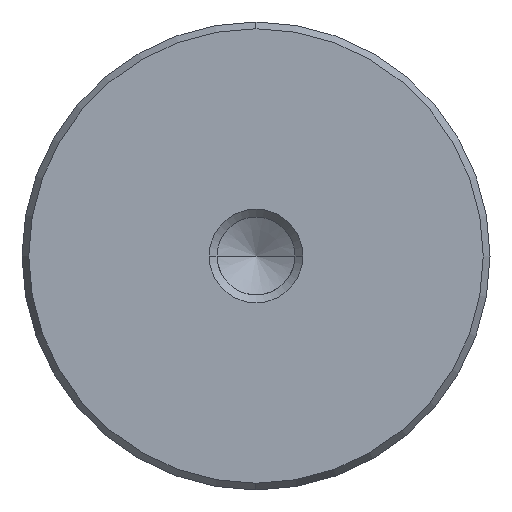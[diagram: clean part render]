
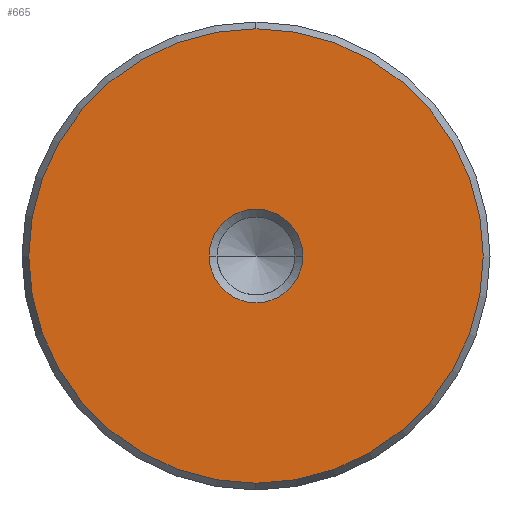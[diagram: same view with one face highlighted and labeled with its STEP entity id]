
A CAD part, left-side view. The second image highlights one B-rep face of the part: STEP entity #665.
In plain terms, the highlighted planar face has unit normal (-1, 0, 0).
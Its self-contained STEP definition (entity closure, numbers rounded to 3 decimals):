
#579=CARTESIAN_POINT('Vertex',(0.,0.,-19.423)) ;
#582=CARTESIAN_POINT('Axis2P3D Location',(0.,0.,0.)) ;
#586=CARTESIAN_POINT('Vertex',(0.,19.423,0.)) ;
#589=CARTESIAN_POINT('Axis2P3D Location',(0.,0.,0.)) ;
#593=CARTESIAN_POINT('Vertex',(0.,0.,19.423)) ;
#615=CARTESIAN_POINT('Axis2P3D Location',(0.,0.,0.)) ;
#619=CARTESIAN_POINT('Vertex',(0.,-19.423,0.)) ;
#622=CARTESIAN_POINT('Axis2P3D Location',(0.,0.,0.)) ;
#636=CARTESIAN_POINT('Axis2P3D Location',(0.,0.,0.)) ;
#647=CARTESIAN_POINT('Axis2P3D Location',(0.,0.,0.)) ;
#651=CARTESIAN_POINT('Vertex',(0.,4.,0.)) ;
#653=CARTESIAN_POINT('Vertex',(0.,-4.,0.)) ;
#656=CARTESIAN_POINT('Axis2P3D Location',(0.,0.,0.)) ;
#583=DIRECTION('Axis2P3D Direction',(1.,0.,-0.)) ;
#590=DIRECTION('Axis2P3D Direction',(1.,0.,-0.)) ;
#616=DIRECTION('Axis2P3D Direction',(1.,0.,-0.)) ;
#623=DIRECTION('Axis2P3D Direction',(1.,0.,-0.)) ;
#637=DIRECTION('Axis2P3D Direction',(1.,0.,-0.)) ;
#638=DIRECTION('Axis2P3D XDirection',(-0.,0.,-1.)) ;
#648=DIRECTION('Axis2P3D Direction',(1.,0.,-0.)) ;
#657=DIRECTION('Axis2P3D Direction',(1.,0.,-0.)) ;
#584=AXIS2_PLACEMENT_3D('Circle Axis2P3D',#582,#583,$) ;
#591=AXIS2_PLACEMENT_3D('Circle Axis2P3D',#589,#590,$) ;
#617=AXIS2_PLACEMENT_3D('Circle Axis2P3D',#615,#616,$) ;
#624=AXIS2_PLACEMENT_3D('Circle Axis2P3D',#622,#623,$) ;
#639=AXIS2_PLACEMENT_3D('Plane Axis2P3D',#636,#637,#638) ;
#649=AXIS2_PLACEMENT_3D('Circle Axis2P3D',#647,#648,$) ;
#658=AXIS2_PLACEMENT_3D('Circle Axis2P3D',#656,#657,$) ;
#642=ORIENTED_EDGE('',*,*,#588,.F.) ;
#643=ORIENTED_EDGE('',*,*,#626,.F.) ;
#644=ORIENTED_EDGE('',*,*,#621,.F.) ;
#645=ORIENTED_EDGE('',*,*,#595,.F.) ;
#662=ORIENTED_EDGE('',*,*,#655,.T.) ;
#663=ORIENTED_EDGE('',*,*,#660,.T.) ;
#664=FACE_BOUND('',#661,.T.) ;
#665=ADVANCED_FACE('720-40x400',(#646,#664),#640,.F.) ;
#585=CIRCLE('generated circle',#584,19.423) ;
#592=CIRCLE('generated circle',#591,19.423) ;
#618=CIRCLE('generated circle',#617,19.423) ;
#625=CIRCLE('generated circle',#624,19.423) ;
#650=CIRCLE('generated circle',#649,4.) ;
#659=CIRCLE('generated circle',#658,4.) ;
#588=EDGE_CURVE('',#580,#587,#585,.T.) ;
#595=EDGE_CURVE('',#587,#594,#592,.T.) ;
#621=EDGE_CURVE('',#594,#620,#618,.T.) ;
#626=EDGE_CURVE('',#620,#580,#625,.T.) ;
#655=EDGE_CURVE('',#652,#654,#650,.T.) ;
#660=EDGE_CURVE('',#654,#652,#659,.T.) ;
#641=EDGE_LOOP('',(#642,#643,#644,#645)) ;
#661=EDGE_LOOP('',(#662,#663)) ;
#646=FACE_OUTER_BOUND('',#641,.T.) ;
#640=PLANE('Plane',#639) ;
#580=VERTEX_POINT('',#579) ;
#587=VERTEX_POINT('',#586) ;
#594=VERTEX_POINT('',#593) ;
#620=VERTEX_POINT('',#619) ;
#652=VERTEX_POINT('',#651) ;
#654=VERTEX_POINT('',#653) ;
